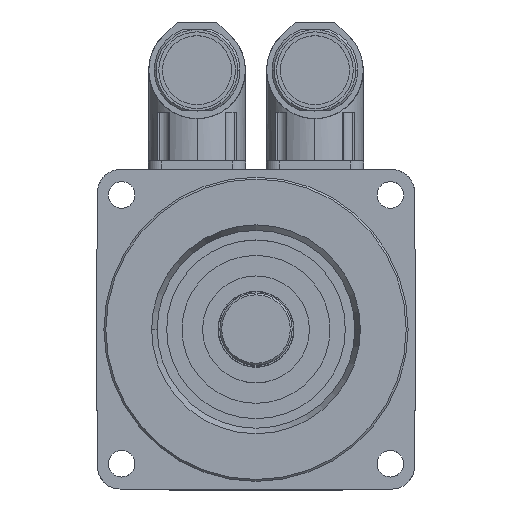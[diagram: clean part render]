
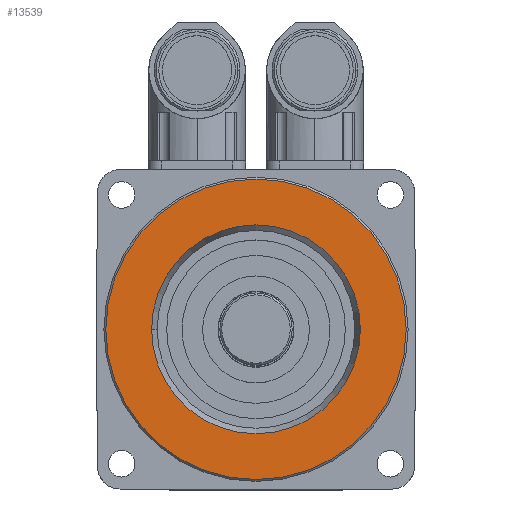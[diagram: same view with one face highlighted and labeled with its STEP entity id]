
A CAD part, top view. The second image highlights one B-rep face of the part: STEP entity #13539.
In plain terms, the highlighted planar face has unit normal (0, 0, 1).
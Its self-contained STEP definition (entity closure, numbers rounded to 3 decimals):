
#152 = PLANE ( 'NONE',  #154 ) ;
#154 = AXIS2_PLACEMENT_3D ( 'NONE', #158, #160, #159 ) ;
#158 = CARTESIAN_POINT ( 'NONE',  ( 0., 39.5, 2.1 ) ) ;
#159 = DIRECTION ( 'NONE',  ( -1., 0., 0. ) ) ;
#160 = DIRECTION ( 'NONE',  ( 0., 0., -1. ) ) ;
#164 = FACE_OUTER_BOUND ( 'NONE', #13545, .T. ) ;
#165 = FACE_BOUND ( 'NONE', #13540, .T. ) ;
#1521 = VERTEX_POINT ( 'NONE', #17718 ) ;
#1524 = EDGE_CURVE ( 'NONE', #1525, #1521, #17884, .T. ) ;
#1525 = VERTEX_POINT ( 'NONE', #17878 ) ;
#1673 = VERTEX_POINT ( 'NONE', #19497 ) ;
#1675 = VERTEX_POINT ( 'NONE', #19498 ) ;
#1775 = EDGE_CURVE ( 'NONE', #1675, #1673, #19751, .T. ) ;
#8072 = DIRECTION ( 'NONE',  ( -1., 0., 0. ) ) ;
#8074 = DIRECTION ( 'NONE',  ( 0., 0., -1. ) ) ;
#8075 = CARTESIAN_POINT ( 'NONE',  ( 0., 0., 2.1 ) ) ;
#8077 = AXIS2_PLACEMENT_3D ( 'NONE', #8075, #8074, #8072 ) ;
#8078 = CIRCLE ( 'NONE', #8077, 27.46 ) ;
#8140 = EDGE_CURVE ( 'NONE', #1521, #1525, #8078, .T. ) ;
#13359 = EDGE_CURVE ( 'NONE', #1673, #1675, #28294, .T. ) ;
#13539 = ADVANCED_FACE ( 'NONE', ( #165, #164 ), #152, .F. ) ;
#13540 = EDGE_LOOP ( 'NONE', ( #13542, #13544 ) ) ;
#13542 = ORIENTED_EDGE ( 'NONE', *, *, #1524, .T. ) ;
#13544 = ORIENTED_EDGE ( 'NONE', *, *, #8140, .T. ) ;
#13545 = EDGE_LOOP ( 'NONE', ( #13726, #13727 ) ) ;
#13726 = ORIENTED_EDGE ( 'NONE', *, *, #1775, .F. ) ;
#13727 = ORIENTED_EDGE ( 'NONE', *, *, #13359, .F. ) ;
#17718 = CARTESIAN_POINT ( 'NONE',  ( -27.46, 0., 2.1 ) ) ;
#17839 = CARTESIAN_POINT ( 'NONE',  ( 0., 0., 2.1 ) ) ;
#17878 = CARTESIAN_POINT ( 'NONE',  ( 27.46, 0., 2.1 ) ) ;
#17879 = DIRECTION ( 'NONE',  ( -1., 0., 0. ) ) ;
#17880 = DIRECTION ( 'NONE',  ( 0., 0., -1. ) ) ;
#17881 = AXIS2_PLACEMENT_3D ( 'NONE', #17839, #17880, #17879 ) ;
#17884 = CIRCLE ( 'NONE', #17881, 27.46 ) ;
#19497 = CARTESIAN_POINT ( 'NONE',  ( 39.5, 0., 2.1 ) ) ;
#19498 = CARTESIAN_POINT ( 'NONE',  ( -39.5, 0., 2.1 ) ) ;
#19636 = DIRECTION ( 'NONE',  ( -1., 0., 0. ) ) ;
#19637 = DIRECTION ( 'NONE',  ( 0., 0., -1. ) ) ;
#19749 = CARTESIAN_POINT ( 'NONE',  ( 0., 0., 2.1 ) ) ;
#19750 = AXIS2_PLACEMENT_3D ( 'NONE', #19749, #19637, #19636 ) ;
#19751 = CIRCLE ( 'NONE', #19750, 39.5 ) ;
#28292 = DIRECTION ( 'NONE',  ( 0., 0., -1. ) ) ;
#28293 = AXIS2_PLACEMENT_3D ( 'NONE', #28310, #28292, #28307 ) ;
#28294 = CIRCLE ( 'NONE', #28293, 39.5 ) ;
#28307 = DIRECTION ( 'NONE',  ( -1., 0., 0. ) ) ;
#28310 = CARTESIAN_POINT ( 'NONE',  ( 0., 0., 2.1 ) ) ;
